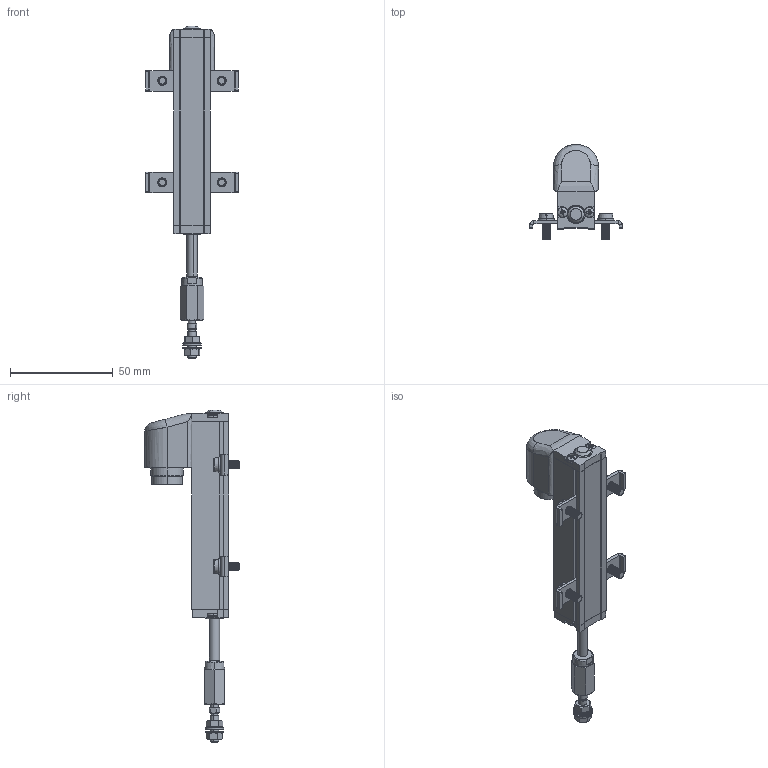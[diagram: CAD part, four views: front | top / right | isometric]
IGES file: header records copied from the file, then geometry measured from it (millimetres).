
Start section: SolidWorks IGES file using analytic representation for surfaces
Global section: file name: K:\Disegni Catalogo\Posizione\PA1\PA1-C-050\3D\Solidworks 2012\PA1-C-050\PA-1-C-050.IGS; native system: SolidWorks 2012; preprocessor: SolidWorks 2012; author: Loda-w1; date: 130219.123155; units: millimetre
Bounding box: 45 x 46.3 x 161.78 mm (x, y, z)
Surface area: 24494.9 mm2 (no closed solid volume)
Topology: 0 solids, 0 shells, 1495 faces, 12708 edges, 12664 vertices
Faces by surface type: revolution 1103, bspline 392
